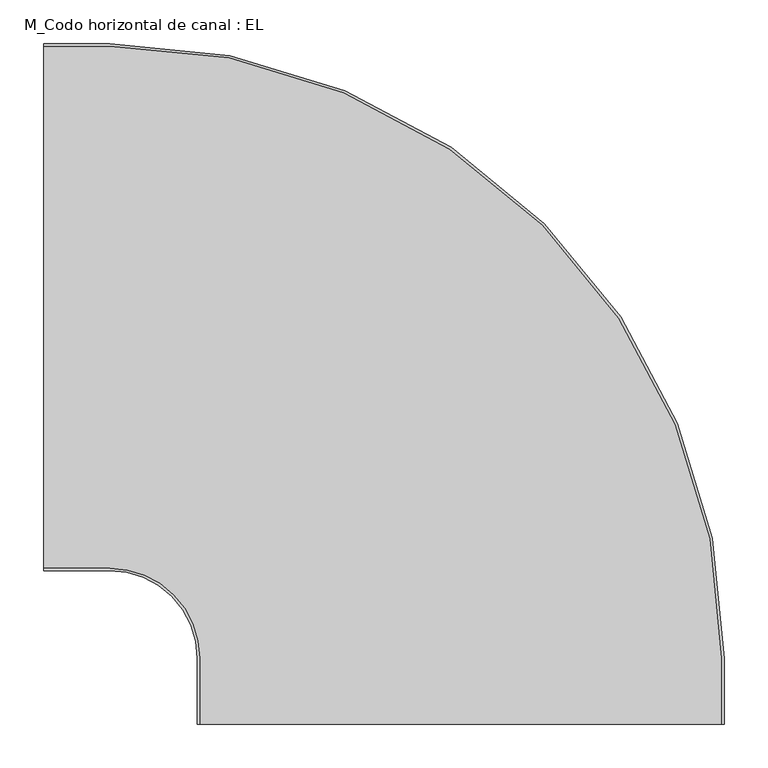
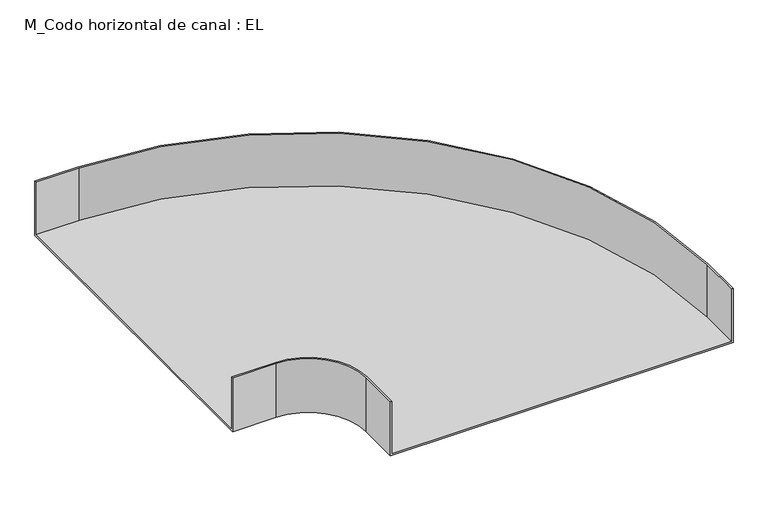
"""IFC4 building model written with IfcOpenShell, lengths in millimetres: cable carrier fitting geometry, M_Codo horizontal de canal : EL."""

from ifc_helpers import new_model, si_unit, frame, origin, place, context, project, spatial, polyline, circle_curve, source, transform, mapped, element, save
from ifc_brep_helpers import plane_surface, cylinder_surface, revolved_surface, advanced_brep


def m_codo_horizontal_de_canal_el_942b80fb(model_context):
    return source(origin(), model_context, "Body", "AdvancedBrep", [
        advanced_brep(
        [(-475.0, 300.0, -50.0), (-475.0, -300.0, -50.0), (-475.0, -300.0, 50.0), (-475.0, -297.46, 50.0), (-475.0, -297.46, -47.46), (-475.0, 297.46, -47.46), (-475.0, 297.46, 50.0), (-475.0, 300.0, 50.0), (300.0, -475.0, -50.0), (300.0, -475.0, 50.0), (297.46, -475.0, 50.0), (297.46, -475.0, -47.46), (-297.46, -475.0, -47.46), (-297.46, -475.0, 50.0), (-300.0, -475.0, 50.0), (-300.0, -475.0, -50.0), (-400.0, 300.0, 50.0), (-400.0, 300.0, -50.0), (-400.0, 297.46, 50.0), (297.46, -400.0, 50.0), (300.0, -400.0, 50.0), (-400.0, 297.46, -47.46), (-400.0, -297.46, -47.46), (-297.46, -400.0, -47.46), (297.46, -400.0, -47.46), (-400.0, -297.46, 50.0), (-400.0, -300.0, 50.0), (-300.0, -400.0, 50.0), (-297.46, -400.0, 50.0), (-400.0, -300.0, -50.0), (300.0, -400.0, -50.0), (-300.0, -400.0, -50.0)],
        [
            (0, 1),
            (1, 2),
            (2, 3),
            (3, 4),
            (4, 5),
            (5, 6),
            (6, 7),
            (7, 0),
            (8, 9),
            (9, 10),
            (10, 11),
            (11, 12),
            (12, 13),
            (13, 14),
            (14, 15),
            (15, 8),
            (7, 16),
            (16, 17),
            (17, 0),
            (6, 18),
            (18, 19, circle_curve(frame((-400.0, -400.0, 50.0), z_axis=(0.0, 0.0, -1.0), x_axis=(0.0, 1.0, 0.0)), 697.46)),
            (19, 10),
            (9, 20),
            (20, 16, circle_curve(frame((-400.0, -400.0, 50.0), z_axis=(0.0, 0.0, 1.0), x_axis=(0.0, 1.0, 0.0)), 700.0)),
            (5, 21),
            (21, 18),
            (4, 22),
            (22, 23, circle_curve(frame((-400.0, -400.0, -47.46), z_axis=(0.0, 0.0, -1.0), x_axis=(0.0, 1.0, 0.0)), 102.54)),
            (23, 12),
            (11, 24),
            (24, 21, circle_curve(frame((-400.0, -400.0, -47.46), z_axis=(0.0, 0.0, 1.0), x_axis=(0.0, 1.0, 0.0)), 697.46)),
            (3, 25),
            (25, 22),
            (2, 26),
            (26, 27, circle_curve(frame((-400.0, -400.0, 50.0), z_axis=(0.0, 0.0, -1.0), x_axis=(0.0, 1.0, 0.0)), 100.0)),
            (27, 14),
            (13, 28),
            (28, 25, circle_curve(frame((-400.0, -400.0, 50.0), z_axis=(0.0, 0.0, 1.0), x_axis=(0.0, 1.0, 0.0)), 102.54)),
            (1, 29),
            (29, 26),
            (17, 30, circle_curve(frame((-400.0, -400.0, -50.0), z_axis=(0.0, 0.0, -1.0), x_axis=(0.0, 1.0, 0.0)), 700.0)),
            (30, 8),
            (15, 31),
            (31, 29, circle_curve(frame((-400.0, -400.0, -50.0), z_axis=(0.0, 0.0, 1.0), x_axis=(0.0, 1.0, 0.0)), 100.0)),
            (20, 30),
            (24, 19),
            (28, 23),
            (31, 27),
        ],
        [
            plane_surface(frame((-475.0, 0.0, 0.0), z_axis=(-1.0, 0.0, 0.0), x_axis=(0.0, 0.0, 1.0))),
            plane_surface(frame((0.0, -475.0, 0.0), z_axis=(0.0, -1.0, 0.0), x_axis=(0.0, 0.0, 1.0))),
            plane_surface(frame((-475.0, 300.0, -50.0), z_axis=(0.0, 1.0, 0.0), x_axis=(1.0, 0.0, 0.0))),
            plane_surface(frame((-475.0, 300.0, 50.0), z_axis=(0.0, 0.0, 1.0), x_axis=(1.0, 0.0, 0.0))),
            plane_surface(frame((-475.0, 297.46, 50.0), z_axis=(0.0, -1.0, 0.0), x_axis=(1.0, 0.0, 0.0))),
            plane_surface(frame((-475.0, 297.46, -47.46), z_axis=(0.0, 0.0, 1.0), x_axis=(1.0, 0.0, 0.0))),
            plane_surface(frame((-475.0, -297.46, -47.46), z_axis=(0.0, 1.0, 0.0), x_axis=(1.0, 0.0, 0.0))),
            plane_surface(frame((-475.0, -297.46, 50.0), z_axis=(0.0, 0.0, 1.0), x_axis=(1.0, 0.0, 0.0))),
            plane_surface(frame((-475.0, -300.0, 50.0), z_axis=(0.0, -1.0, 0.0), x_axis=(1.0, 0.0, 0.0))),
            plane_surface(frame((-475.0, -300.0, -50.0), z_axis=(0.0, 0.0, -1.0), x_axis=(1.0, 0.0, 0.0))),
            cylinder_surface(frame((-400.0, -400.0, 0.0), z_axis=(0.0, 0.0, 1.0), x_axis=(0.0, 1.0, 0.0)), 700.0),
            revolved_surface(polyline([(-400.0, 297.46000000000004, 50.0), (-400.0, 297.46000000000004, -47.46)]), (-400.0, -400.0, 0.0), (0.0, 0.0, 1.0)),
            cylinder_surface(frame((-400.0, -400.0, 0.0), z_axis=(0.0, 0.0, 1.0), x_axis=(0.0, 1.0, 0.0)), 102.54),
            revolved_surface(polyline([(-400.0, -300.0, 50.0), (-400.0, -300.0, -50.0)]), (-400.0, -400.0, 0.0), (0.0, 0.0, 1.0)),
            plane_surface(frame((300.0, -400.0, -50.0), z_axis=(1.0, 0.0, 0.0), x_axis=(0.0, -1.0, 0.0))),
            plane_surface(frame((297.46, -400.0, 50.0), z_axis=(-1.0, 0.0, 0.0), x_axis=(0.0, -1.0, 0.0))),
            plane_surface(frame((-297.46, -400.0, -47.46), z_axis=(1.0, 0.0, 0.0), x_axis=(0.0, -1.0, 0.0))),
            plane_surface(frame((-300.0, -400.0, 50.0), z_axis=(-1.0, 0.0, 0.0), x_axis=(0.0, -1.0, 0.0))),
        ],
        [
            (0, [[1, 2, 3, 4, 5, 6, 7, 8]]),
            (1, [[9, 10, 11, 12, 13, 14, 15, 16]]),
            (2, [[17, 18, 19, -8]]),
            (3, [[20, 21, 22, -10, 23, 24, -17, -7]]),
            (4, [[25, 26, -20, -6]]),
            (5, [[27, 28, 29, -12, 30, 31, -25, -5]]),
            (6, [[32, 33, -27, -4]]),
            (7, [[34, 35, 36, -14, 37, 38, -32, -3]]),
            (8, [[39, 40, -34, -2]]),
            (9, [[-19, 41, 42, -16, 43, 44, -39, -1]]),
            (10, [[45, -41, -18, -24]]),
            (11, [[46, -21, -26, -31]]),
            (12, [[47, -28, -33, -38]]),
            (13, [[48, -35, -40, -44]]),
            (14, [[-23, -9, -42, -45]]),
            (15, [[-30, -11, -22, -46]]),
            (16, [[-37, -13, -29, -47]]),
            (17, [[-43, -15, -36, -48]]),
        ],
    ),
    ])


if __name__ == "__main__":
    model = new_model("IFC4")
    model_context = context("Model", 3, world=origin())
    ifc_project = project(units=[si_unit("LENGTHUNIT", "METRE", prefix="MILLI")], contexts=[model_context])
    site = spatial("IfcSite", under=ifc_project)
    building = spatial("IfcBuilding", under=site)
    placement = place(None, origin())
    m_codo_horizontal_de_canal_el_shape = m_codo_horizontal_de_canal_el_942b80fb(model_context)
    element("IfcCableCarrierFitting", 1, ObjectType="M_Codo horizontal de canal : EL", at=placement, inside=building, context=model_context, shape_type="MappedRepresentation", body=[
        mapped(m_codo_horizontal_de_canal_el_shape, transform((0.0, 0.0, 0.0), x_axis=(1.0, 0.0, 0.0), y_axis=(0.0, 1.0, 0.0), z_axis=(0.0, 0.0, 1.0))),
    ])
    save(model, "model.ifc")
